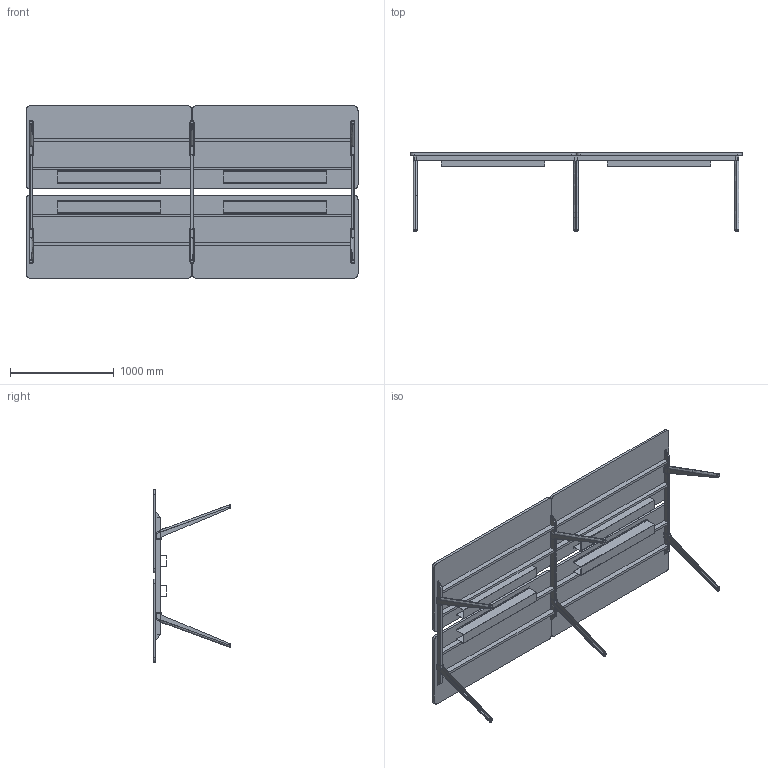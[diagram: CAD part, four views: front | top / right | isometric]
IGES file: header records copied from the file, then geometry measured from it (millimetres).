
Start section: SolidWorks IGES file using analytic representation for surfaces
Global section: file name: C:\Users\simone.cerana\OneDrive - Gruppo Tecno\Desktop\CHINA\DISEGNI DI SERIE\ASSIEMI LISTINO\HORIZON LISTINO\FULL OPTIONAL\HO3216FO.IGS; native system: SolidWorks 2024; preprocessor: SolidWorks 2024; author: simone.cerana; date: 260512.151437; units: millimetre
Bounding box: 3201 x 750.58 x 1660 mm (x, y, z)
Surface area: 15909283.4 mm2 (no closed solid volume)
Topology: 0 solids, 0 shells, 614 faces, 7166 edges, 7166 vertices
Faces by surface type: bspline 440, revolution 174
